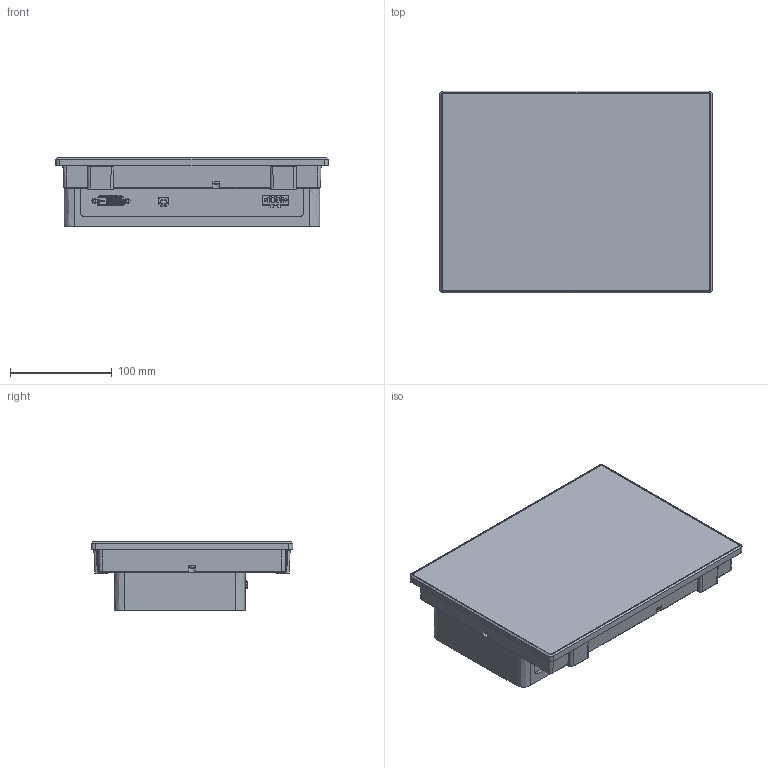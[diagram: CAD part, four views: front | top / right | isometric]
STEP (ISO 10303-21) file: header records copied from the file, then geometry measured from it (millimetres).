
FILE_DESCRIPTION((''),'2;1');
FILE_NAME('SIMPL_ASM_1_1_2_3_ASM_1_ASM','2021-06-02T09:18:08',('danae.lavaud'),(''),'CREO PARAMETRIC BY PTC INC, 2018260','CREO PARAMETRIC BY PTC INC, 2018260','');
FILE_SCHEMA(('CONFIG_CONTROL_DESIGN'));
Products named in the file (17): PRT0001_1_1_1_1_1_2_1; HUA1256901_1_1_1_1_1_1_1_1; HUA1145401_1_1_1_1_1_1_1_1; ASM0005_ASM_1_ASM_1_ASM_1_ASM_2_ASM; PRT0002_1_1_1_1_1_1; PRT0001_1_1_1_1_1_1_7; MFR7789501_1_1_1_1_1_1_1_1_1; MFR7789701_ASM_1_ASM_1_ASM_1__1_ASM; SCREW_MSC_XREC_PAN_M3X36_1_1__1; ASM0005_ASM_1_ASM_1_1_2_3_ASM_1_ASM; SIMPL_ASM_1_ASM_1_ASM_1_ASM_1_1_ASM; DISPLAY_ADAPTER_20200611_1_2_10; DISPLAY_ADAPTER_20200611_1_2_12; DISPLAY_ADAPTER_20200611_1_2_11_ASM; BROCHE_ASM_1_ASM; PFXFP6500WCD_ASM_1_1_2_ASM_1_ASM; SIMPL_ASM_1_1_2_3_ASM_1_ASM
Assembly tree (34 placements, depth 5):
  SIMPL_ASM_1_1_2_3_ASM_1_ASM
    PFXFP6500WCD_ASM_1_1_2_ASM_1_ASM
      SIMPL_ASM_1_ASM_1_ASM_1_ASM_1_1_ASM
        PRT0001_1_1_1_1_1_2_1
        ASM0005_ASM_1_ASM_1_ASM_1_ASM_2_ASM
          HUA1256901_1_1_1_1_1_1_1_1  x8
          HUA1145401_1_1_1_1_1_1_1_1  x4
        PRT0002_1_1_1_1_1_1
        PRT0001_1_1_1_1_1_1_7
        MFR7789701_ASM_1_ASM_1_ASM_1__1_ASM  x4
          MFR7789501_1_1_1_1_1_1_1_1_1
        ASM0005_ASM_1_ASM_1_1_2_3_ASM_1_ASM
          SCREW_MSC_XREC_PAN_M3X36_1_1__1  x6
      BROCHE_ASM_1_ASM
        DISPLAY_ADAPTER_20200611_1_2_11_ASM
          DISPLAY_ADAPTER_20200611_1_2_10
          DISPLAY_ADAPTER_20200611_1_2_12
Bounding box: 268.5 x 198.5 x 67.5 mm (x, y, z)
Volume: 2604513.2 mm3; surface area: 274425.6 mm2
Topology: 27 solids, 43 shells, 4394 faces, 12373 edges, 7906 vertices
Faces by surface type: plane 2457, cylinder 1337, bspline 172, cone 168, torus 144, sphere 92, extrusion 24
Entity records: 116428 total; most frequent: CARTESIAN_POINT 27727, ORIENTED_EDGE 19214, DIRECTION 17520, EDGE_CURVE 9624, VECTOR 7206, LINE 7182, VERTEX_POINT 6263, AXIS2_PLACEMENT_3D 5157
